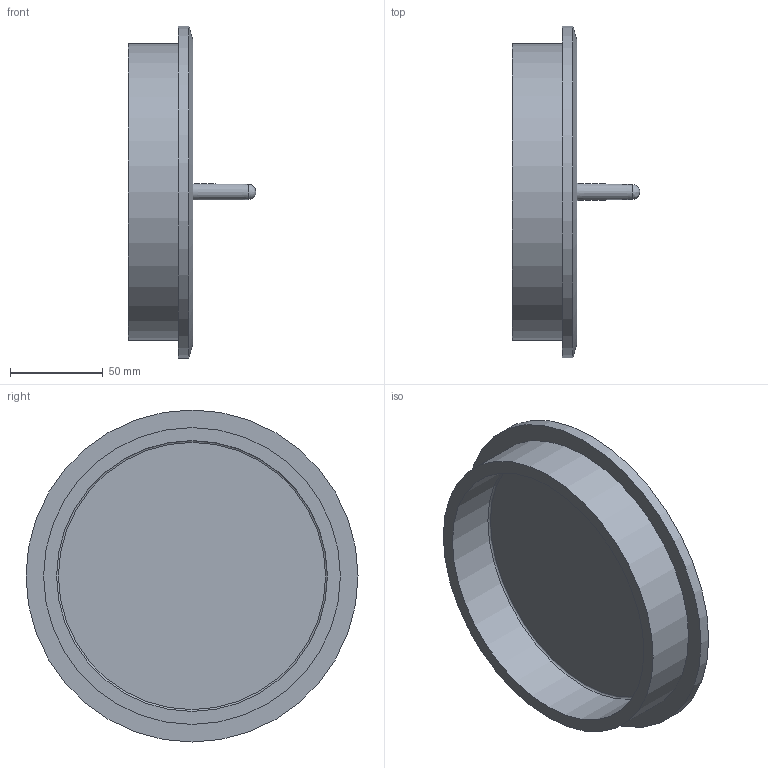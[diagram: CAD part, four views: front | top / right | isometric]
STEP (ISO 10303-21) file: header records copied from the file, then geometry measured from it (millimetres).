
FILE_DESCRIPTION(/* description */ (''),/* implementation_level */ '2;1');
FILE_NAME(/* name */ 'Z:\Geberit\Export\NewStep\Abschlussdeckel_Ipart\stp\369812.stp',/* time_stamp */ '2014-04-03T17:37:18+02:00',/* author */ ('Bründl'),/* organization */ (''),/* preprocessor_version */ 'ST-DEVELOPER v15.2',/* originating_system */ 'Autodesk Inventor 2014',/* authorisation */ '');
FILE_SCHEMA (('AUTOMOTIVE_DESIGN { 1 0 10303 214 3 1 1 }'));
Length unit declared in the file: millimetre
Products named in the file (1): 369812
Bounding box: 69 x 179 x 179 mm (x, y, z)
Volume: 272753 mm3; surface area: 80845.6 mm2
Topology: 1 solids, 1 shells, 12 faces, 20 edges, 13 vertices
Faces by surface type: plane 5, cylinder 3, cone 2, bspline 1, torus 1
Full cylindrical faces by diameter (mm): 146 x1, 160 x1, 179 x1
Entity records: 313 total; most frequent: CARTESIAN_POINT 68, DIRECTION 50, ORIENTED_EDGE 28, AXIS2_PLACEMENT_3D 25, EDGE_LOOP 21, EDGE_CURVE 14, CIRCLE 13, VERTEX_POINT 13
